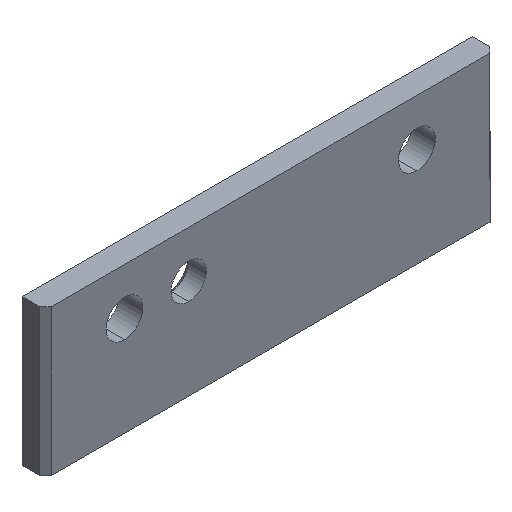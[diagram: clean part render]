
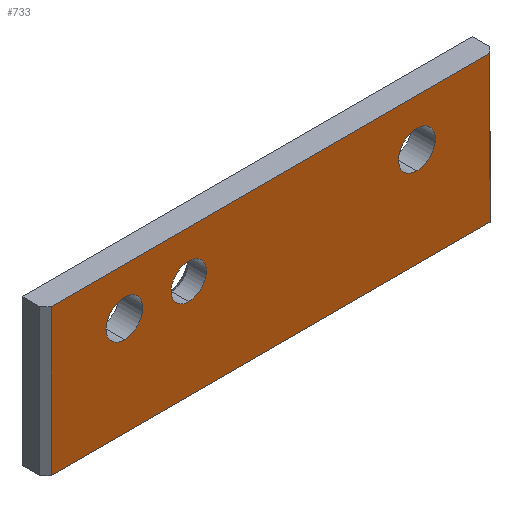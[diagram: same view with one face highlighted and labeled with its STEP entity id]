
A CAD part, isometric view. The second image highlights one B-rep face of the part: STEP entity #733.
In plain terms, the highlighted planar face has unit normal (0, -1, 0).
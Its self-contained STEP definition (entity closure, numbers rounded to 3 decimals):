
#114 = ORIENTED_EDGE ( 'NONE', *, *, #4296, .T. ) ;
#188 = CARTESIAN_POINT ( 'NONE',  ( -25., 0., 1.35 ) ) ;
#208 = EDGE_CURVE ( 'NONE', #954, #3123, #3073, .T. ) ;
#212 = DIRECTION ( 'NONE',  ( 0., 0., 1. ) ) ;
#266 = FACE_BOUND ( 'NONE', #4094, .T. ) ;
#292 = CIRCLE ( 'NONE', #1384, 3. ) ;
#294 = CARTESIAN_POINT ( 'NONE',  ( -37.5, 0., 12.5 ) ) ;
#295 = EDGE_CURVE ( 'NONE', #1635, #1136, #4037, .T. ) ;
#370 = ORIENTED_EDGE ( 'NONE', *, *, #3913, .T. ) ;
#374 = FACE_BOUND ( 'NONE', #3866, .T. ) ;
#384 = ORIENTED_EDGE ( 'NONE', *, *, #1609, .T. ) ;
#433 = EDGE_CURVE ( 'NONE', #2829, #2809, #2733, .T. ) ;
#525 = ORIENTED_EDGE ( 'NONE', *, *, #967, .T. ) ;
#533 = AXIS2_PLACEMENT_3D ( 'NONE', #4522, #3446, #212 ) ;
#636 = CARTESIAN_POINT ( 'NONE',  ( 25., 0., 1.35 ) ) ;
#733 = ADVANCED_FACE ( 'NONE', ( #3015, #3985, #266, #374 ), #2012, .F. ) ;
#769 = AXIS2_PLACEMENT_3D ( 'NONE', #4297, #2151, #4653 ) ;
#932 = ORIENTED_EDGE ( 'NONE', *, *, #3887, .F. ) ;
#950 = VECTOR ( 'NONE', #2465, 1000. ) ;
#954 = VERTEX_POINT ( 'NONE', #3220 ) ;
#967 = EDGE_CURVE ( 'NONE', #3123, #954, #2795, .T. ) ;
#1008 = CARTESIAN_POINT ( 'NONE',  ( -25., 0., 4.5 ) ) ;
#1136 = VERTEX_POINT ( 'NONE', #1322 ) ;
#1160 = DIRECTION ( 'NONE',  ( 0., 0., 1. ) ) ;
#1161 = LINE ( 'NONE', #1732, #3089 ) ;
#1240 = CARTESIAN_POINT ( 'NONE',  ( -14., 0., 4.5 ) ) ;
#1243 = DIRECTION ( 'NONE',  ( 0., 1., 0. ) ) ;
#1253 = CARTESIAN_POINT ( 'NONE',  ( -14., 0., 1.5 ) ) ;
#1322 = CARTESIAN_POINT ( 'NONE',  ( -25., 0., 7.65 ) ) ;
#1373 = DIRECTION ( 'NONE',  ( 0., 0., 1. ) ) ;
#1384 = AXIS2_PLACEMENT_3D ( 'NONE', #3884, #1708, #4232 ) ;
#1511 = VERTEX_POINT ( 'NONE', #4104 ) ;
#1590 = DIRECTION ( 'NONE',  ( 0., 0., 1. ) ) ;
#1609 = EDGE_CURVE ( 'NONE', #1136, #1635, #1939, .T. ) ;
#1635 = VERTEX_POINT ( 'NONE', #188 ) ;
#1691 = DIRECTION ( 'NONE',  ( 0., 1., 0. ) ) ;
#1708 = DIRECTION ( 'NONE',  ( 0., 1., 0. ) ) ;
#1732 = CARTESIAN_POINT ( 'NONE',  ( -38.5, 0., -12.5 ) ) ;
#1746 = AXIS2_PLACEMENT_3D ( 'NONE', #1240, #3769, #1590 ) ;
#1797 = ORIENTED_EDGE ( 'NONE', *, *, #433, .T. ) ;
#1844 = ORIENTED_EDGE ( 'NONE', *, *, #2741, .T. ) ;
#1921 = LINE ( 'NONE', #2117, #950 ) ;
#1932 = AXIS2_PLACEMENT_3D ( 'NONE', #3400, #1243, #3773 ) ;
#1939 = CIRCLE ( 'NONE', #1932, 3.15 ) ;
#2012 = PLANE ( 'NONE',  #533 ) ;
#2037 = VECTOR ( 'NONE', #2089, 1000. ) ;
#2089 = DIRECTION ( 'NONE',  ( 1., 0., 0. ) ) ;
#2117 = CARTESIAN_POINT ( 'NONE',  ( -37.5, 0., 0. ) ) ;
#2133 = DIRECTION ( 'NONE',  ( -1., 0., 0. ) ) ;
#2145 = LINE ( 'NONE', #3533, #2037 ) ;
#2151 = DIRECTION ( 'NONE',  ( 0., 1., 0. ) ) ;
#2242 = CARTESIAN_POINT ( 'NONE',  ( -37.5, 0., -12.5 ) ) ;
#2465 = DIRECTION ( 'NONE',  ( 0., 0., -1. ) ) ;
#2569 = ORIENTED_EDGE ( 'NONE', *, *, #295, .T. ) ;
#2733 = CIRCLE ( 'NONE', #1746, 3. ) ;
#2741 = EDGE_CURVE ( 'NONE', #2820, #1511, #3262, .T. ) ;
#2795 = CIRCLE ( 'NONE', #769, 3.15 ) ;
#2809 = VERTEX_POINT ( 'NONE', #1253 ) ;
#2820 = VERTEX_POINT ( 'NONE', #3045 ) ;
#2829 = VERTEX_POINT ( 'NONE', #3782 ) ;
#3000 = ORIENTED_EDGE ( 'NONE', *, *, #208, .T. ) ;
#3015 = FACE_BOUND ( 'NONE', #3649, .T. ) ;
#3045 = CARTESIAN_POINT ( 'NONE',  ( 37.5, 0., -12.5 ) ) ;
#3073 = CIRCLE ( 'NONE', #3992, 3.15 ) ;
#3089 = VECTOR ( 'NONE', #2133, 1000. ) ;
#3123 = VERTEX_POINT ( 'NONE', #636 ) ;
#3220 = CARTESIAN_POINT ( 'NONE',  ( 25., 0., 7.65 ) ) ;
#3227 = ORIENTED_EDGE ( 'NONE', *, *, #3500, .F. ) ;
#3262 = LINE ( 'NONE', #3733, #4117 ) ;
#3400 = CARTESIAN_POINT ( 'NONE',  ( -25., 0., 4.5 ) ) ;
#3446 = DIRECTION ( 'NONE',  ( 0., 1., 0. ) ) ;
#3500 = EDGE_CURVE ( 'NONE', #2820, #4456, #1161, .T. ) ;
#3533 = CARTESIAN_POINT ( 'NONE',  ( -38.5, 0., 12.5 ) ) ;
#3542 = DIRECTION ( 'NONE',  ( 0., 1., 0. ) ) ;
#3649 = EDGE_LOOP ( 'NONE', ( #525, #3000 ) ) ;
#3733 = CARTESIAN_POINT ( 'NONE',  ( 37.5, 0., 0. ) ) ;
#3769 = DIRECTION ( 'NONE',  ( 0., 1., 0. ) ) ;
#3773 = DIRECTION ( 'NONE',  ( 0., 0., 1. ) ) ;
#3782 = CARTESIAN_POINT ( 'NONE',  ( -14., 0., 7.5 ) ) ;
#3856 = VERTEX_POINT ( 'NONE', #294 ) ;
#3866 = EDGE_LOOP ( 'NONE', ( #114, #1797 ) ) ;
#3869 = CARTESIAN_POINT ( 'NONE',  ( 25., 0., 4.5 ) ) ;
#3884 = CARTESIAN_POINT ( 'NONE',  ( -14., 0., 4.5 ) ) ;
#3887 = EDGE_CURVE ( 'NONE', #3856, #1511, #2145, .T. ) ;
#3913 = EDGE_CURVE ( 'NONE', #3856, #4456, #1921, .T. ) ;
#3985 = FACE_OUTER_BOUND ( 'NONE', #4600, .T. ) ;
#3992 = AXIS2_PLACEMENT_3D ( 'NONE', #3869, #1691, #4218 ) ;
#4037 = CIRCLE ( 'NONE', #4226, 3.15 ) ;
#4094 = EDGE_LOOP ( 'NONE', ( #2569, #384 ) ) ;
#4104 = CARTESIAN_POINT ( 'NONE',  ( 37.5, 0., 12.5 ) ) ;
#4117 = VECTOR ( 'NONE', #1160, 1000. ) ;
#4218 = DIRECTION ( 'NONE',  ( 0., 0., 1. ) ) ;
#4226 = AXIS2_PLACEMENT_3D ( 'NONE', #1008, #3542, #1373 ) ;
#4232 = DIRECTION ( 'NONE',  ( 0., 0., 1. ) ) ;
#4296 = EDGE_CURVE ( 'NONE', #2809, #2829, #292, .T. ) ;
#4297 = CARTESIAN_POINT ( 'NONE',  ( 25., 0., 4.5 ) ) ;
#4456 = VERTEX_POINT ( 'NONE', #2242 ) ;
#4522 = CARTESIAN_POINT ( 'NONE',  ( 0., 0., 0. ) ) ;
#4600 = EDGE_LOOP ( 'NONE', ( #3227, #1844, #932, #370 ) ) ;
#4653 = DIRECTION ( 'NONE',  ( 0., 0., 1. ) ) ;
